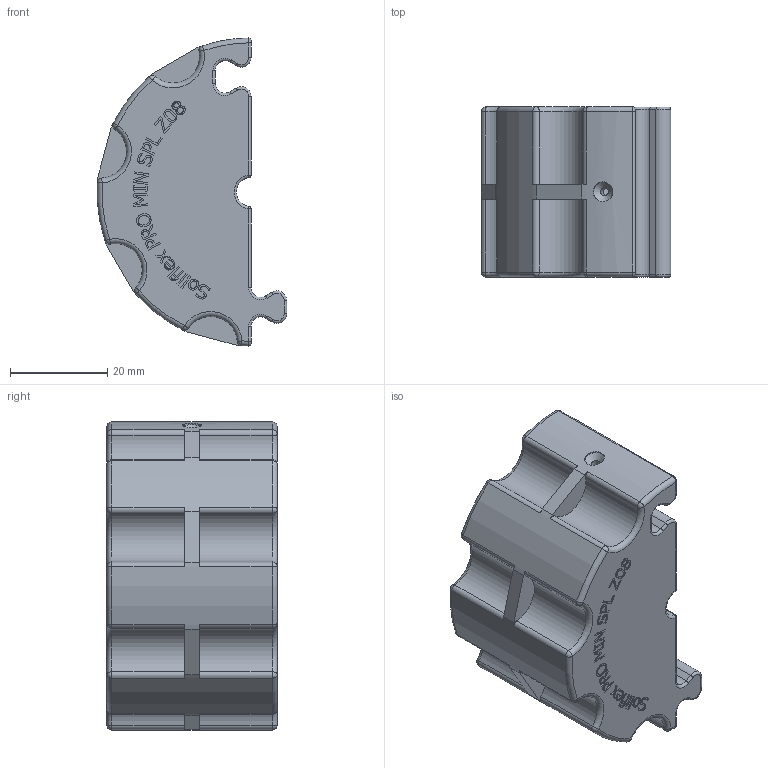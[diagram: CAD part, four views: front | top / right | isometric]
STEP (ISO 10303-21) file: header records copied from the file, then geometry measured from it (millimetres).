
FILE_DESCRIPTION(/* description */ ('Unknown'),/* implementation_level */ '2;1');
FILE_NAME(/* name */ 'GEN0001-D315 MIN Z08 D063.3 SPL PB06 BLUE',/* time_stamp */ '2018-01-31T17:01:40+01:00',/* author */ ('Unknown'),/* organization */ ('Unknown'),/* preprocessor_version */ 'ST-DEVELOPER v16.7',/* originating_system */ 'DEX',/* authorisation */ $);
FILE_SCHEMA (('AUTOMOTIVE_DESIGN {1 0 10303 214 3 1 1}'));
Length unit declared in the file: millimetre
Products named in the file (1): GEN0001-D315 MIN Z08 D063.3 SPL PB06 BLUE
Bounding box: 38.92 x 35 x 63.29 mm (x, y, z)
Volume: 49292.9 mm3; surface area: 10277.6 mm2
Topology: 1 solids, 1 shells, 336 faces, 832 edges, 508 vertices
Faces by surface type: plane 175, cylinder 65, bspline 39, torus 36, sphere 20, cone 1
Full cylindrical faces by diameter (mm): 1.65 x2, 4.05 x1
Entity records: 11587 total; most frequent: CARTESIAN_POINT 3882, ORIENTED_EDGE 1598, DIRECTION 1530, EDGE_CURVE 799, AXIS2_PLACEMENT_3D 514, VERTEX_POINT 505, LINE 502, VECTOR 502
